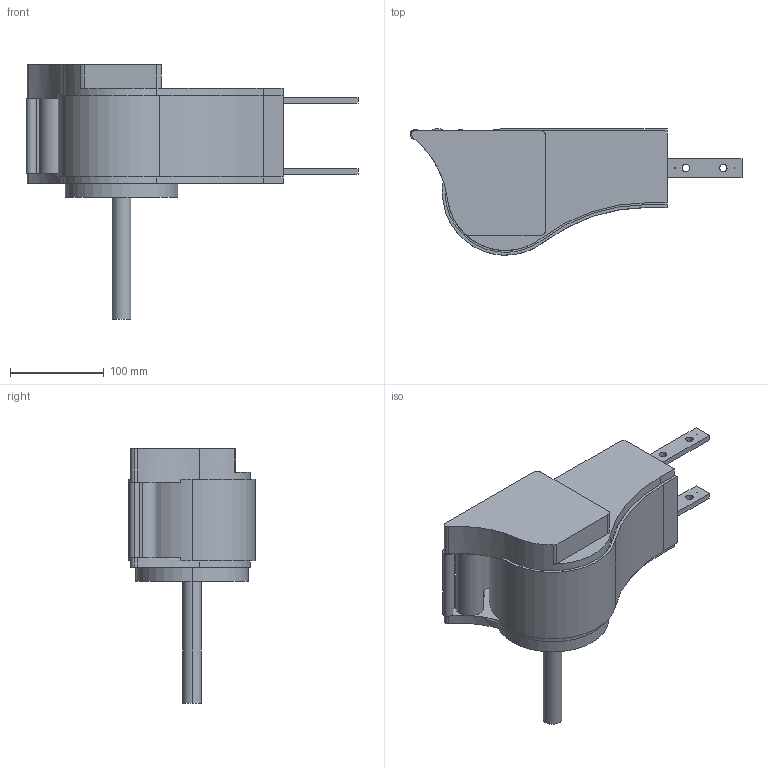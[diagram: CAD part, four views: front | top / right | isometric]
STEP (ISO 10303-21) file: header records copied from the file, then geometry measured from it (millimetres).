
FILE_DESCRIPTION (( 'STEP AP214' ), '1' );
FILE_NAME ('CS SL Aandr. - Omloop.90 Aandr. rol rechts.STEP', '2017-02-08T07:32:57', ( '' ), ( '' ), 'SwSTEP 2.0', 'SolidWorks 2016', '' );
FILE_SCHEMA (( 'AUTOMOTIVE_DESIGN' ));
Length unit declared in the file: millimetre
Products named in the file (1): CS SL Aandr. - Omloop.90 Aandr. rol rechts
Bounding box: 354.5 x 134.96 x 271.6 mm (x, y, z)
Volume: 3117806.7 mm3; surface area: 183023.3 mm2
Topology: 1 solids, 1 shells, 159 faces, 426 edges, 272 vertices
Faces by surface type: cylinder 80, plane 71, cone 8
Entity records: 5141 total; most frequent: DIRECTION 929, CARTESIAN_POINT 850, ORIENTED_EDGE 836, EDGE_CURVE 418, AXIS2_PLACEMENT_3D 351, VERTEX_POINT 272, VECTOR 227, LINE 227
